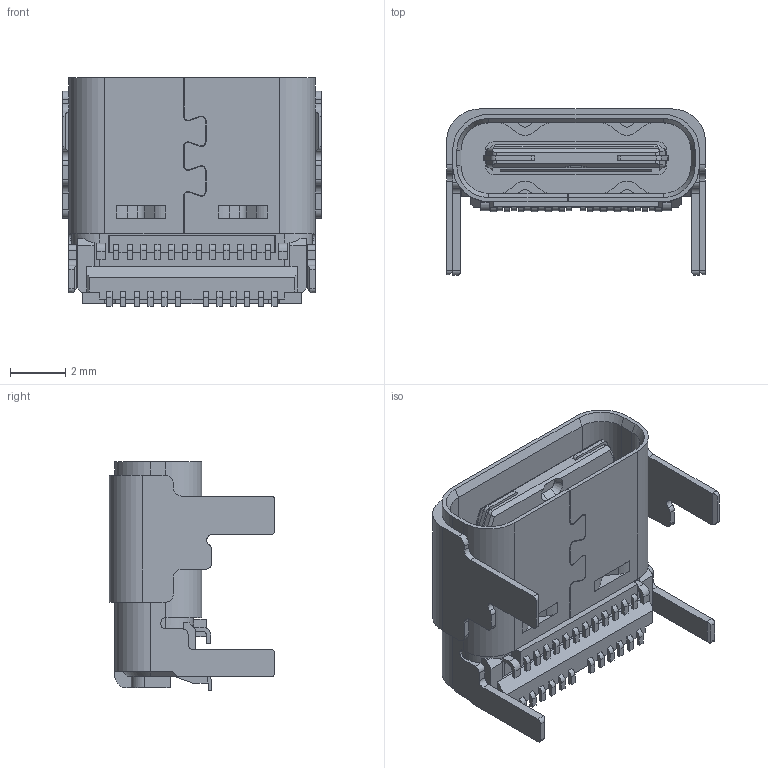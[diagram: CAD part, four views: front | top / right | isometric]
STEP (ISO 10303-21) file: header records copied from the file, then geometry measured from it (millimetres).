
FILE_DESCRIPTION(('STEP AP242'),'1');
FILE_NAME('2012670005.stp','2026-01-09T00:58:01',('TraceParts'),('TraceParts S.A.S.'),'Spatial InterOp 3D',' ',' ');
FILE_SCHEMA(('AP242_MANAGED_MODEL_BASED_3D_ENGINEERING_MIM_LF {1 0 10303 442 1 1 4}'));
Length unit declared in the file: millimetre
Products named in the file (1): Solid1
Bounding box: 9.39 x 6.01 x 8.3 mm (x, y, z)
Volume: 160 mm3; surface area: 487 mm2
Topology: 1 solids, 1 shells, 661 faces, 1914 edges, 1257 vertices
Faces by surface type: plane 429, cylinder 201, cone 15, torus 8, bspline 8
Entity records: 21877 total; most frequent: CARTESIAN_POINT 4029, ORIENTED_EDGE 3828, DIRECTION 3698, EDGE_CURVE 1914, LINE 1418, VECTOR 1418, VERTEX_POINT 1257, AXIS2_PLACEMENT_3D 1140
